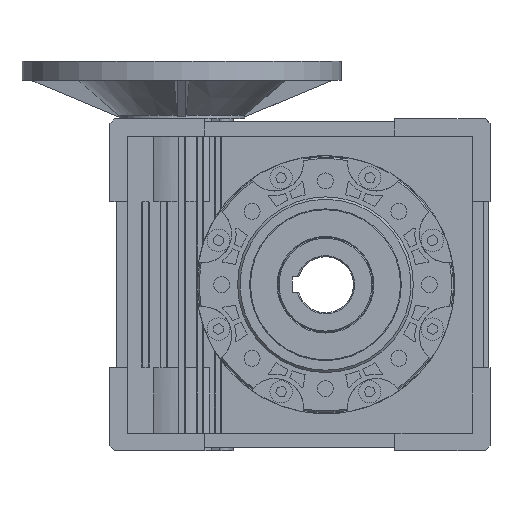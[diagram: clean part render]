
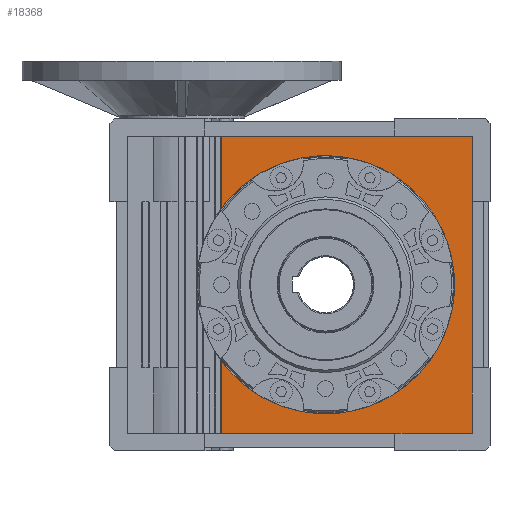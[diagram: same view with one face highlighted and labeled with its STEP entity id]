
A CAD part, left-side view. The second image highlights one B-rep face of the part: STEP entity #18368.
In plain terms, the highlighted planar face has unit normal (-1, 0, 0).
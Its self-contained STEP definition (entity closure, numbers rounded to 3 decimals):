
#467=LINE('',#27348,#2247);
#546=LINE('',#27516,#2326);
#547=LINE('',#27518,#2327);
#548=LINE('',#27520,#2328);
#549=LINE('',#27521,#2329);
#2247=VECTOR('',#21956,1000.);
#2326=VECTOR('',#22097,1000.);
#2327=VECTOR('',#22098,1000.);
#2328=VECTOR('',#22099,1000.);
#2329=VECTOR('',#22100,1000.);
#4391=FACE_OUTER_BOUND('',#5426,.T.);
#5426=EDGE_LOOP('',(#12276,#12277,#12278,#12279,#12280,#12281));
#6444=CIRCLE('',#19393,80.8);
#7300=VERTEX_POINT('',#26852);
#7301=VERTEX_POINT('',#26853);
#7473=VERTEX_POINT('',#27347);
#7531=VERTEX_POINT('',#27515);
#7532=VERTEX_POINT('',#27517);
#7533=VERTEX_POINT('',#27519);
#9091=EDGE_CURVE('',#7300,#7301,#6444,.T.);
#9290=EDGE_CURVE('',#7473,#7301,#467,.T.);
#9374=EDGE_CURVE('',#7300,#7531,#546,.T.);
#9375=EDGE_CURVE('',#7532,#7531,#547,.T.);
#9376=EDGE_CURVE('',#7533,#7532,#548,.T.);
#9377=EDGE_CURVE('',#7473,#7533,#549,.T.);
#12276=ORIENTED_EDGE('',*,*,#9091,.F.);
#12277=ORIENTED_EDGE('',*,*,#9374,.T.);
#12278=ORIENTED_EDGE('',*,*,#9375,.F.);
#12279=ORIENTED_EDGE('',*,*,#9376,.F.);
#12280=ORIENTED_EDGE('',*,*,#9377,.F.);
#12281=ORIENTED_EDGE('',*,*,#9290,.T.);
#16652=PLANE('',#19571);
#18368=ADVANCED_FACE('',(#4391),#16652,.F.);
#19393=AXIS2_PLACEMENT_3D('',#26854,#21566,#21567);
#19571=AXIS2_PLACEMENT_3D('',#27514,#22095,#22096);
#21566=DIRECTION('center_axis',(-1.,0.,0.));
#21567=DIRECTION('ref_axis',(0.,0.,
-1.));
#21956=DIRECTION('',(0.,0.,-1.));
#22095=DIRECTION('center_axis',(1.,0.,0.));
#22096=DIRECTION('ref_axis',(0.,0.,
-1.));
#22097=DIRECTION('',(0.,0.,-1.));
#22098=DIRECTION('',(0.,1.,0.));
#22099=DIRECTION('',(0.,0.,-1.));
#22100=DIRECTION('',(0.,-1.,0.));
#26852=CARTESIAN_POINT('',(-37.,117.092,-391.316));
#26853=CARTESIAN_POINT('',(-37.,117.092,-295.55));
#26854=CARTESIAN_POINT('Origin',(-37.,52.009,-343.433));
#27347=CARTESIAN_POINT('',(-37.,117.092,-250.433));
#27348=CARTESIAN_POINT('',(-37.,117.092,-436.433));
#27514=CARTESIAN_POINT('Origin',(-37.,-39.991,-436.433));
#27515=CARTESIAN_POINT('',(-37.,117.092,-436.433));
#27516=CARTESIAN_POINT('',(-37.,117.092,-436.433));
#27517=CARTESIAN_POINT('',(-37.,-39.991,-436.433));
#27518=CARTESIAN_POINT('',(-37.,-39.991,-436.433));
#27519=CARTESIAN_POINT('',(-37.,-39.991,-250.433));
#27520=CARTESIAN_POINT('',(-37.,-39.991,-250.433));
#27521=CARTESIAN_POINT('',(-37.,-39.991,-250.433));
